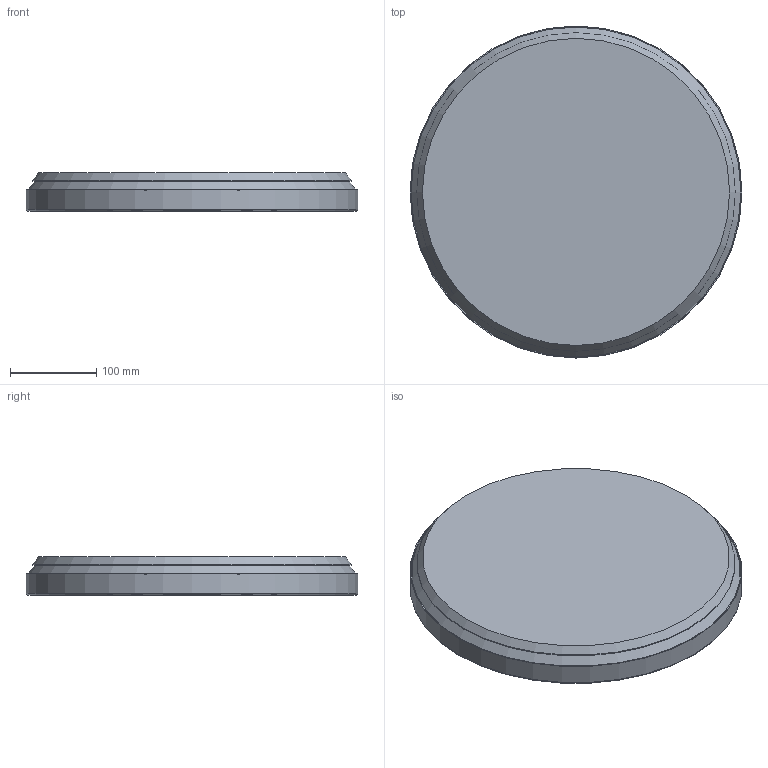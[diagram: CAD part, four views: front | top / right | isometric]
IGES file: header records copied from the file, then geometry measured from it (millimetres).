
Start section: SolidWorks IGES file using analytic representation for surfaces
Global section: file name: X:\PRODUKT\Modele 3D_WWW\_KOLEKCJE WWW\AGNES\AGNES-ROUND-LED-8207-8204-8186-8183\AGNES-ROUND-LED-8207-8204-8186-8183.IGS; native system: SolidWorks 2021; preprocessor: SolidWorks 2021; author: gabriela.tworek; date: 220708.105350; units: millimetre
Bounding box: 385 x 385 x 44.25 mm (x, y, z)
Surface area: 386818.5 mm2 (no closed solid volume)
Topology: 0 solids, 0 shells, 23 faces, 55 edges, 42 vertices
Faces by surface type: revolution 13, bspline 10
